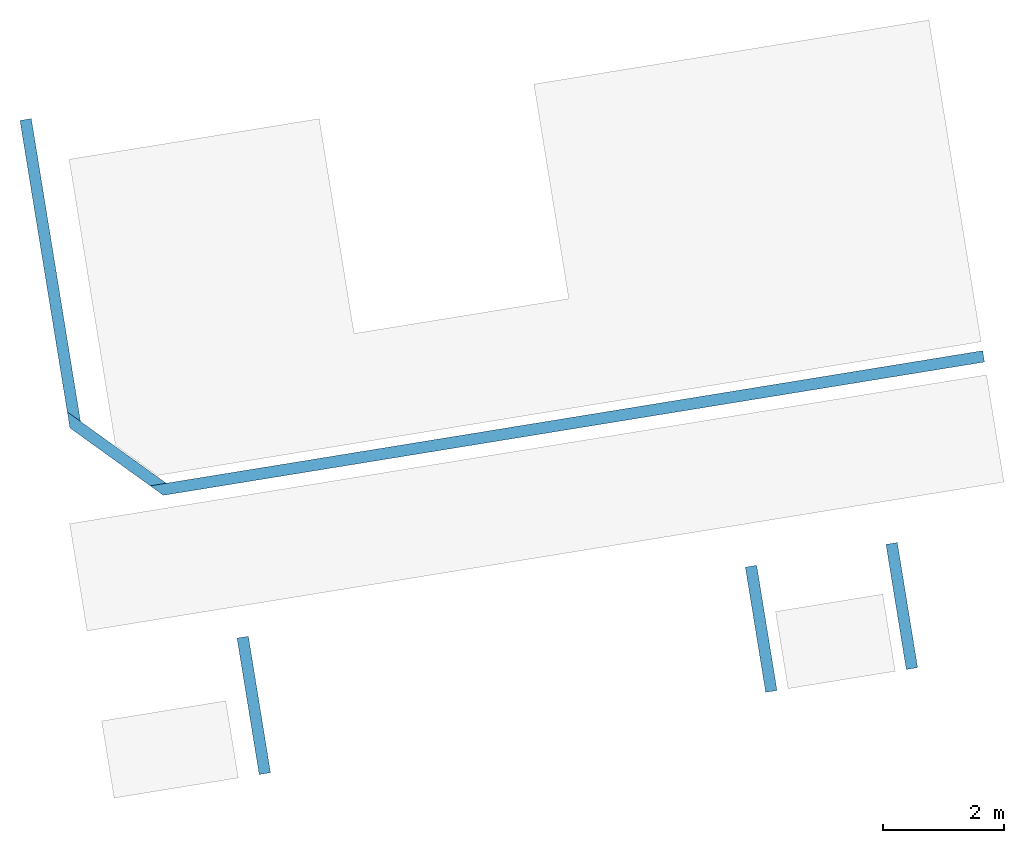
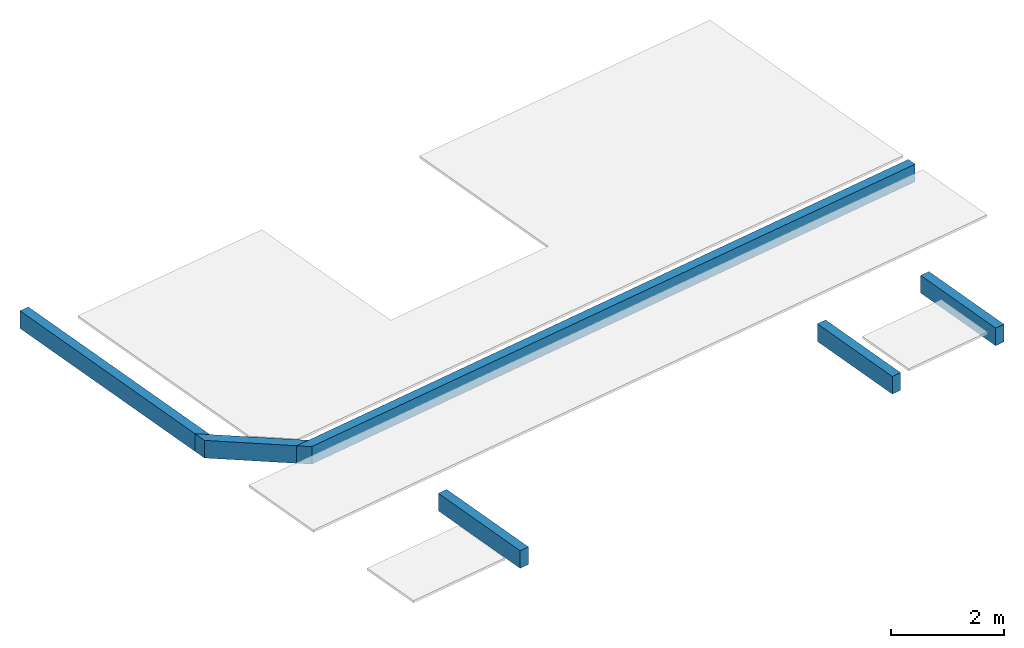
# One storey, part 1 of 2: 6 walls.
"""IFC2X3 building model written with IfcOpenShell, lengths in millimetres."""

from ifc_helpers import new_model, entity, si_unit, converted_unit, derived_unit, direction, frame, origin, origin_with_axes, place, context, subcontext, project, spatial, faceted_brep, material, layer, layer_set, type_object, element, save


model = new_model("IFC2X3")

# Units and contexts
model_context = context("Model", 3, precision=0.01, world=origin(), true_north=direction((6.12323399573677e-17, 1.0)))
plan_context = context("Plan", 3, precision=1e-05, world=origin_with_axes())
body_context = subcontext(model_context, "Body", "Model", "MODEL_VIEW")
ifc_project = project(units=[converted_unit("PLANEANGLEUNIT", "DEGREE", entity("IfcPositiveLengthMeasure", 0.0174532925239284), si_unit("PLANEANGLEUNIT", "RADIAN"), dimensions=[0, 0, 0, 0, 0, 0, 0]), si_unit("AREAUNIT", "SQUARE_METRE"), si_unit("LENGTHUNIT", "METRE", prefix="MILLI"), si_unit("MASSUNIT", "GRAM", prefix="KILO"), si_unit("POWERUNIT", "WATT"), si_unit("PRESSUREUNIT", "PASCAL", prefix="KILO"), si_unit("FORCEUNIT", "NEWTON", prefix="KILO"), si_unit("ELECTRICVOLTAGEUNIT", "VOLT"), si_unit("ELECTRICCURRENTUNIT", "AMPERE"), si_unit("THERMODYNAMICTEMPERATUREUNIT", "DEGREE_CELSIUS"), si_unit("TIMEUNIT", "SECOND"), si_unit("VOLUMEUNIT", "CUBIC_METRE"), derived_unit("LINEARVELOCITYUNIT", [(si_unit("LENGTHUNIT", "METRE"), 1), (si_unit("TIMEUNIT", "SECOND"), -1)]), derived_unit("VOLUMETRICFLOWRATEUNIT", [(si_unit("VOLUMEUNIT", "CUBIC_METRE"), 1), (si_unit("TIMEUNIT", "SECOND"), -1)]), derived_unit("THERMALTRANSMITTANCEUNIT", [(si_unit("POWERUNIT", "WATT"), 1), (si_unit("THERMODYNAMICTEMPERATUREUNIT", "KELVIN"), -1), (si_unit("AREAUNIT", "SQUARE_METRE"), -1)]), derived_unit("SOUNDPRESSUREUNIT", [(si_unit("PRESSUREUNIT", "PASCAL"), 1)])], contexts=[model_context, plan_context])

# Site, building, storey
site_placement = place(None, frame((-0.00071070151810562, 0.00438415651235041, 0.0), z_axis=(0.0, 0.0, 1.0), x_axis=(-0.160236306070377, 0.987078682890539, 0.0)))
site = spatial("IfcSite", under=ifc_project, at=site_placement, Name="Default", CompositionType="ELEMENT")
building_placement = place(site_placement, origin_with_axes())
building = spatial("IfcBuilding", under=site, at=building_placement, Name="TOO", CompositionType="ELEMENT")
storey_placement = place(building_placement, frame((0.0, 0.0, 44699.9999999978), z_axis=(0.0, 0.0, 1.0), x_axis=(1.0, 0.0, 0.0)))
storey = spatial("IfcBuildingStorey", under=building, at=storey_placement, Name="Nivå B", CompositionType="ELEMENT", Elevation=44699.9999999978)

# Walls
ifc_material = material(Name="A200 - Betong")
ifc_layer = layer(ifc_material, 190.0)
ifc_layer_set = layer_set([ifc_layer], Name="Basic Wall:A242 - Betongblokk - 190 mm massiv/utstøpt")
wall_type = type_object("IfcWallType", Name="Basic Wall:A242 - Betongblokk - 190 mm massiv/utstøpt", PredefinedType="STANDARD", material=ifc_layer_set)
wall_1_placement = place(storey_placement, frame((774931.320220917, -589247.481738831, 0.0), z_axis=(0.0, 0.0, 1.0), x_axis=(1.0, 0.0, 0.0)))
element("IfcWall", 1, at=wall_1_placement, inside=storey, type_object=wall_type, Name="Basic Wall:A242 - Betongblokk - 190 mm massiv/utstøpt", ObjectType="Basic Wall:A242 - Betongblokk - 190 mm massiv/utstøpt", context=body_context, shape_type="Brep", body=[
    faceted_brep([(0.0, -95.0, 5299.99999999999), (190.0, 95.0, 5299.99999999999), (190.0, 95.0, 5679.99999999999), (0.0, -95.0, 5679.99999999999), (5081.29942314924, -95.0, 5679.99999999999), (5081.29942314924, -95.0, 5299.99999999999), (5081.29942314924, 95.0, 5299.99999999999), (5081.29942314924, 95.0, 5679.99999999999)], [[[0, 1, 2, 3]], [[4, 5, 0, 3]], [[1, 6, 7, 2]], [[7, 4, 3, 2]], [[5, 4, 7, 6]], [[6, 1, 0, 5]]], orient=[[False], [False], [False], [False], [False], [False]]),
])
wall_2_placement = place(storey_placement, frame((775054.145076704, -589085.306594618, 0.0), z_axis=(0.0, 0.0, 1.0), x_axis=(-0.707106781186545, -0.70710678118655, 0.0)))
element("IfcWall", 2, at=wall_2_placement, inside=storey, type_object=wall_type, Name="Basic Wall:A242 - Betongblokk - 190 mm massiv/utstøpt", ObjectType="Basic Wall:A242 - Betongblokk - 190 mm massiv/utstøpt", context=body_context, shape_type="Brep", body=[
    faceted_brep([(1830.48773235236, -95.0, 5299.99999999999), (190.0, -95.0, 5299.99999999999), (190.0, -95.0, 5679.99999999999), (1830.48773235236, -95.0, 5679.99999999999), (2020.4877323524, 95.0, 5299.99999999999), (2020.4877323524, 95.0, 5679.99999999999), (0.0, 95.0, 5299.99999999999), (0.0, 95.0, 5679.99999999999)], [[[0, 1, 2, 3]], [[4, 0, 3, 5]], [[6, 4, 5, 7]], [[1, 6, 7, 2]], [[3, 2, 7, 5]], [[4, 6, 1, 0]]], orient=[[False], [False], [False], [False], [False], [False]]),
])
wall_3_placement = place(storey_placement, frame((773597.619644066, -590312.481738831, 0.0), z_axis=(0.0, 0.0, 1.0), x_axis=(0.0, -1.0, 0.0)))
element("IfcWall", 3, at=wall_3_placement, inside=storey, type_object=wall_type, Name="Basic Wall:A242 - Betongblokk - 190 mm massiv/utstøpt", ObjectType="Basic Wall:A242 - Betongblokk - 190 mm massiv/utstøpt", context=body_context, shape_type="Brep", body=[
    faceted_brep([(13969.9987600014, -95.0, 5679.99999999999), (13969.9987600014, -95.0, 5299.99999999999), (190.0, -95.0, 5299.99999999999), (190.0, -95.0, 5679.99999999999), (0.0, 95.0, 5299.99999999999), (13969.9987600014, 95.0, 5299.99999999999), (13969.9987600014, 95.0, 5679.99999999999), (0.0, 95.0, 5679.99999999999)], [[[0, 1, 2, 3]], [[4, 5, 6, 7]], [[2, 4, 7, 3]], [[6, 0, 3, 7]], [[1, 0, 6, 5]], [[5, 4, 2, 1]]], orient=[[False], [False], [False], [False], [False], [False]]),
])
wall_4_placement = place(storey_placement, frame((762002.619644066, -591422.480498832, 0.0), z_axis=(0.0, 0.0, 1.0), x_axis=(1.0, 0.0, 0.0)))
element("IfcWall", 4, at=wall_4_placement, inside=storey, type_object=wall_type, Name="Basic Wall:A242 - Betongblokk - 190 mm massiv/utstøpt", ObjectType="Basic Wall:A242 - Betongblokk - 190 mm massiv/utstøpt", context=body_context, shape_type="Brep", body=[
    faceted_brep([(8969.99999999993, 95.0000000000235, 5299.99999999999), (8969.99999999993, -95.0000000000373, 5299.99999999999), (8969.99999999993, -95.0000000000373, 5679.99999999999), (8969.99999999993, 95.0000000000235, 5679.99999999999), (6680.00000000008, 95.0000000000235, 5679.99999999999), (6680.00000000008, 95.0000000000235, 5299.99999999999), (6680.00000000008, -95.0000000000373, 5299.99999999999), (6680.00000000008, -95.0000000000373, 5679.99999999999)], [[[0, 1, 2, 3]], [[4, 5, 0, 3]], [[1, 6, 7, 2]], [[7, 4, 3, 2]], [[5, 4, 7, 6]], [[6, 1, 0, 5]]], orient=[[False], [False], [False], [False], [False], [False]]),
])
wall_5_placement = place(storey_placement, frame((751177.619644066, -602282.480498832, 0.0), z_axis=(0.0, 0.0, 1.0), x_axis=(1.0, 0.0, 0.0)))
element("IfcWall", 5, at=wall_5_placement, inside=storey, type_object=wall_type, Name="Basic Wall:A242 - Betongblokk - 190 mm massiv/utstøpt", ObjectType="Basic Wall:A242 - Betongblokk - 190 mm massiv/utstøpt", context=body_context, shape_type="Brep", body=[
    faceted_brep([(19604.9999999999, 95.0000000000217, 5299.99999999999), (19604.9999999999, -95.000000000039, 5299.99999999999), (19604.9999999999, -95.000000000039, 5679.99999999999), (19604.9999999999, 95.0000000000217, 5679.99999999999), (17505.0000000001, 95.0000000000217, 5679.99999999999), (17505.0000000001, 95.0000000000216, 5299.99999999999), (17505.0000000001, -95.0000000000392, 5299.99999999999), (17505.0000000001, -95.000000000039, 5679.99999999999)], [[[0, 1, 2, 3]], [[4, 5, 0, 3]], [[1, 6, 7, 2]], [[7, 4, 3, 2]], [[5, 4, 7, 6]], [[6, 1, 0, 5]]], orient=[[False], [False], [False], [False], [False], [False]]),
])
wall_6_placement = place(storey_placement, frame((755277.619644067, -599922.480498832, 0.0), z_axis=(0.0, 0.0, 1.0), x_axis=(1.0, 0.0, 0.0)))
element("IfcWall", 6, at=wall_6_placement, inside=storey, type_object=wall_type, Name="Basic Wall:A242 - Betongblokk - 190 mm massiv/utstøpt", ObjectType="Basic Wall:A242 - Betongblokk - 190 mm massiv/utstøpt", context=body_context, shape_type="Brep", body=[
    faceted_brep([(15504.9999999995, 95.0000000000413, 5299.99999999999), (15504.9999999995, -95.0000000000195, 5299.99999999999), (15504.9999999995, -95.0000000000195, 5679.99999999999), (15504.9999999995, 95.0000000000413, 5679.99999999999), (13404.9999999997, 95.0000000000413, 5679.99999999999), (13404.9999999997, 95.0000000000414, 5299.99999999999), (13404.9999999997, -95.0000000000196, 5299.99999999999), (13404.9999999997, -95.0000000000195, 5679.99999999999)], [[[0, 1, 2, 3]], [[4, 5, 0, 3]], [[1, 6, 7, 2]], [[7, 4, 3, 2]], [[5, 4, 7, 6]], [[6, 1, 0, 5]]], orient=[[False], [False], [False], [False], [False], [False]]),
])

save(model, "model.ifc")
